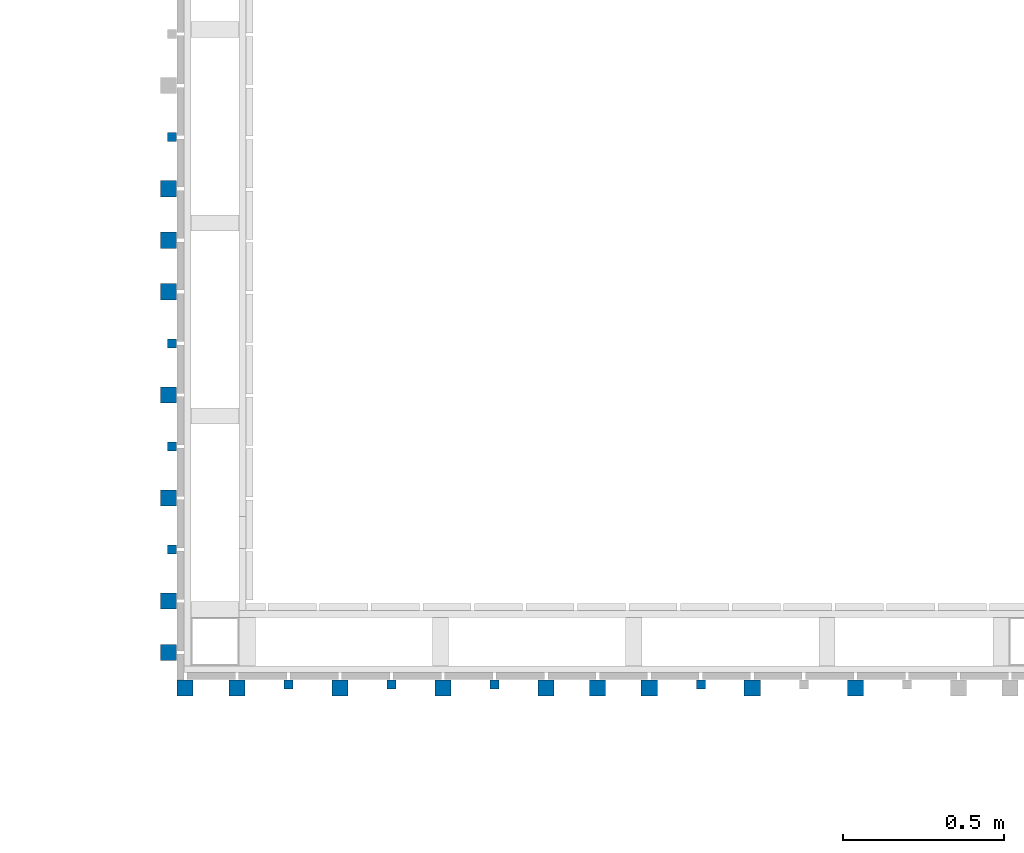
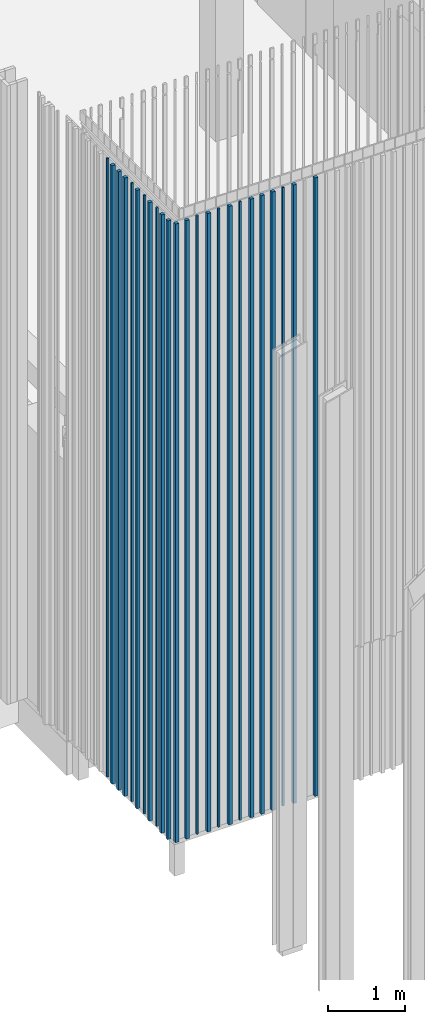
# One storey, part 7 of 390: 24 walls.
"""IFC2X3 building model written with IfcOpenShell, lengths in millimetres."""

from ifc_helpers import new_model, entity, si_unit, converted_unit, derived_unit, money_unit, direction, frame, origin_with_axes, origin_2d_with_axis, place, context, subcontext, project, spatial, rectangle, extrude, material, type_object, element, save


model = new_model("IFC2X3")

# Units and contexts
model_context = context("Model", 3, precision=1e-05, world=origin_with_axes(), true_north=direction((0.0, 1.0)))
body_context = subcontext(model_context, "Body", "Model", "MODEL_VIEW")
ifc_project = project(units=[si_unit("LENGTHUNIT", "METRE", prefix="MILLI"), si_unit("AREAUNIT", "SQUARE_METRE"), si_unit("VOLUMEUNIT", "CUBIC_METRE"), converted_unit("PLANEANGLEUNIT", "DEGREE", entity("IfcPlaneAngleMeasure", 0.0174532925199), si_unit("PLANEANGLEUNIT", "RADIAN"), dimensions=[0, 0, 0, 0, 0, 0, 0]), si_unit("SOLIDANGLEUNIT", "STERADIAN"), money_unit("EUR"), converted_unit("TIMEUNIT", "Year", entity("IfcTimeMeasure", 31556926.0), si_unit("TIMEUNIT", "SECOND"), dimensions=[0, 0, 1, 0, 0, 0, 0]), si_unit("MASSUNIT", "GRAM", prefix="KILO"), si_unit("THERMODYNAMICTEMPERATUREUNIT", "DEGREE_CELSIUS"), si_unit("LUMINOUSINTENSITYUNIT", "LUMEN"), si_unit("ENERGYUNIT", "JOULE", prefix="MEGA"), derived_unit("THERMALCONDUCTANCEUNIT", [(si_unit("POWERUNIT", "WATT"), 1), (si_unit("LENGTHUNIT", "METRE"), -1), (si_unit("THERMODYNAMICTEMPERATUREUNIT", "KELVIN"), -1)]), derived_unit("SPECIFICHEATCAPACITYUNIT", [(si_unit("ENERGYUNIT", "JOULE"), 1), (si_unit("MASSUNIT", "GRAM", prefix="KILO"), -1), (si_unit("THERMODYNAMICTEMPERATUREUNIT", "KELVIN"), -1)]), derived_unit("MASSDENSITYUNIT", [(si_unit("MASSUNIT", "GRAM", prefix="KILO"), 1), (si_unit("VOLUMEUNIT", "CUBIC_METRE"), -1)])], contexts=[model_context])

# Site, building, storey
site_placement = place(None, origin_with_axes())
site = spatial("IfcSite", under=ifc_project, at=site_placement, Name="Site", CompositionType="ELEMENT")
building_placement = place(site_placement, origin_with_axes())
building = spatial("IfcBuilding", under=site, at=building_placement, Name="Building", CompositionType="ELEMENT")
storey_placement = place(building_placement, origin_with_axes())
storey = spatial("IfcBuildingStorey", under=building, at=storey_placement, Name="1 korrus", CompositionType="ELEMENT", Elevation=0.0)

# Walls
ifc_material = material(Name="Site specified")
wall_type = type_object("IfcWallType", Name="Puitfassaadi ribistik", PredefinedType="NOTDEFINED")
wall_1_placement = place(storey_placement, frame((122461.99996, 42455.0000317, 100.000000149), z_axis=(0.0, 0.0, 1.0), x_axis=(-1.0, 0.0, 0.0)))
element("IfcWall", 1, at=wall_1_placement, inside=storey, type_object=wall_type, material=ifc_material, Name="Site specified", context=body_context, shape_type="SweptSolid", body=[
    extrude(rectangle(XDim=50.0, YDim=49.9999999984, at=origin_2d_with_axis()), origin_with_axes(), (0.0, 0.0, 1.0), 9764.99999985),
])
wall_2_placement = place(storey_placement, frame((123102.99996, 42466.0000742, 100.000000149), z_axis=(0.0, 0.0, 1.0), x_axis=(-1.0, 0.0, 0.0)))
element("IfcWall", 2, at=wall_2_placement, inside=storey, type_object=wall_type, material=ifc_material, Name="Site specified", context=body_context, shape_type="SweptSolid", body=[
    extrude(rectangle(XDim=28.0, YDim=28.0, at=origin_2d_with_axis()), origin_with_axes(), (0.0, 0.0, 1.0), 9764.99999985),
])
wall_3_placement = place(storey_placement, frame((122942.99996, 42455.0000242, 100.000000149), z_axis=(0.0, 0.0, 1.0), x_axis=(-1.0, 0.0, 0.0)))
element("IfcWall", 3, at=wall_3_placement, inside=storey, type_object=wall_type, material=ifc_material, Name="Site specified", context=body_context, shape_type="SweptSolid", body=[
    extrude(rectangle(XDim=50.0, YDim=50.0, at=origin_2d_with_axis()), origin_with_axes(), (0.0, 0.0, 1.0), 9764.99999985),
])
wall_4_placement = place(storey_placement, frame((122782.99996, 42466.0000817, 100.000000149), z_axis=(0.0, 0.0, 1.0), x_axis=(-1.0, 0.0, 0.0)))
element("IfcWall", 4, at=wall_4_placement, inside=storey, type_object=wall_type, material=ifc_material, Name="Site specified", context=body_context, shape_type="SweptSolid", body=[
    extrude(rectangle(XDim=28.0, YDim=28.0, at=origin_2d_with_axis()), origin_with_axes(), (0.0, 0.0, 1.0), 9764.99999985),
])
for number, where, z_axis, x_axis, name in (
    (5, (122622.99996, 42455.0000317, 100.000000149), (0.0, 0.0, 1.0), (-1.0, 0.0, 0.0), "Site specified"),
    (6, (124222.99996, 42455.0000167, 100.000000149), (0.0, 0.0, 1.0), (-1.0, 0.0, 0.0), "Site specified"),
):
    element("IfcWall", number, at=place(storey_placement, frame(where, z_axis=z_axis, x_axis=x_axis)), inside=storey, type_object=wall_type, material=ifc_material, Name=name, context=body_context, shape_type="SweptSolid", body=[
        extrude(rectangle(XDim=50.0, YDim=50.0, at=origin_2d_with_axis()), origin_with_axes(), (0.0, 0.0, 1.0), 9764.99999985),
    ])
wall_5_placement = place(storey_placement, frame((123422.99996, 42466.0000742, 100.000000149), z_axis=(0.0, 0.0, 1.0), x_axis=(-1.0, 0.0, 0.0)))
element("IfcWall", 7, at=wall_5_placement, inside=storey, type_object=wall_type, material=ifc_material, Name="Site specified", context=body_context, shape_type="SweptSolid", body=[
    extrude(rectangle(XDim=28.0, YDim=28.0, at=origin_2d_with_axis()), origin_with_axes(), (0.0, 0.0, 1.0), 9764.99999985),
])
for number, where, z_axis, x_axis, name in (
    (8, (123262.99996, 42455.0000742, 100.000000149), (0.0, 0.0, 1.0), (-1.0, 0.0, 0.0), "Site specified"),
    (9, (123582.99996, 42455.0000742, 100.000000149), (0.0, 0.0, 1.0), (-1.0, 0.0, 0.0), "Site specified"),
    (10, (123742.99996, 42455.0000742, 100.000000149), (0.0, 0.0, 1.0), (-1.0, 0.0, 0.0), "Site specified"),
    (11, (123902.99996, 42455.0000242, 100.000000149), (0.0, 0.0, 1.0), (-1.0, 0.0, 0.0), "Site specified"),
    (12, (124542.99996, 42455.0000667, 100.000000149), (0.0, 0.0, 1.0), (-1.0, 0.0, 0.0), "Site specified"),
):
    element("IfcWall", number, at=place(storey_placement, frame(where, z_axis=z_axis, x_axis=x_axis)), inside=storey, type_object=wall_type, material=ifc_material, Name=name, context=body_context, shape_type="SweptSolid", body=[
        extrude(rectangle(XDim=50.0, YDim=50.0, at=origin_2d_with_axis()), origin_with_axes(), (0.0, 0.0, 1.0), 9764.99999985),
    ])
wall_6_placement = place(storey_placement, frame((124062.99996, 42466.0000742, 100.000000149), z_axis=(0.0, 0.0, 1.0), x_axis=(-1.0, 0.0, 0.0)))
element("IfcWall", 13, at=wall_6_placement, inside=storey, type_object=wall_type, material=ifc_material, Name="Site specified", context=body_context, shape_type="SweptSolid", body=[
    extrude(rectangle(XDim=28.0, YDim=28.0, at=origin_2d_with_axis()), origin_with_axes(), (0.0, 0.0, 1.0), 9764.99999985),
])
for number, where, z_axis, x_axis, name in (
    (14, (122410.99996, 42565.0001117, 100.000000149), (0.0, 0.0, 1.0), (-1.0, 0.0, 0.0), "Site specified"),
    (15, (122410.99996, 42725.0001117, 100.000000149), (0.0, 0.0, 1.0), (-1.0, 0.0, 0.0), "Site specified"),
    (16, (122410.99996, 43045.0001117, 100.000000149), (0.0, 0.0, 1.0), (-1.0, 0.0, 0.0), "Site specified"),
    (17, (122410.99991, 43365.0001117, 100.000000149), (0.0, 0.0, 1.0), (-1.0, 0.0, 0.0), "Site specified"),
    (18, (122410.999918, 43685.0001117, 100.000000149), (0.0, 0.0, 1.0), (-1.0, 0.0, 0.0), "Site specified"),
    (19, (122410.999968, 43845.0001117, 100.000000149), (0.0, 0.0, 1.0), (-1.0, 0.0, 0.0), "Site specified"),
    (20, (122410.999968, 44005.0001117, 100.000000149), (0.0, 0.0, 1.0), (-1.0, 0.0, 0.0), "Site specified"),
):
    element("IfcWall", number, at=place(storey_placement, frame(where, z_axis=z_axis, x_axis=x_axis)), inside=storey, type_object=wall_type, material=ifc_material, Name=name, context=body_context, shape_type="SweptSolid", body=[
        extrude(rectangle(XDim=50.0, YDim=49.9999999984, at=origin_2d_with_axis()), origin_with_axes(), (0.0, 0.0, 1.0), 9764.99999985),
    ])
for number, where, z_axis, x_axis, name in (
    (21, (122421.99996, 42885.0001117, 100.000000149), (0.0, 0.0, 1.0), (-1.0, 0.0, 0.0), "Site specified"),
    (22, (122421.999968, 44165.0001117, 100.000000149), (0.0, 0.0, 1.0), (-1.0, 0.0, 0.0), "Site specified"),
    (23, (122421.999968, 43525.0001117, 100.000000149), (0.0, 0.0, 1.0), (-1.0, 0.0, 0.0), "Site specified"),
    (24, (122421.99996, 43205.0001117, 100.000000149), (0.0, 0.0, 1.0), (-1.0, 0.0, 0.0), "Site specified"),
):
    element("IfcWall", number, at=place(storey_placement, frame(where, z_axis=z_axis, x_axis=x_axis)), inside=storey, type_object=wall_type, material=ifc_material, Name=name, context=body_context, shape_type="SweptSolid", body=[
        extrude(rectangle(XDim=28.0, YDim=28.0, at=origin_2d_with_axis()), origin_with_axes(), (0.0, 0.0, 1.0), 9764.99999985),
    ])

save(model, "model.ifc")
